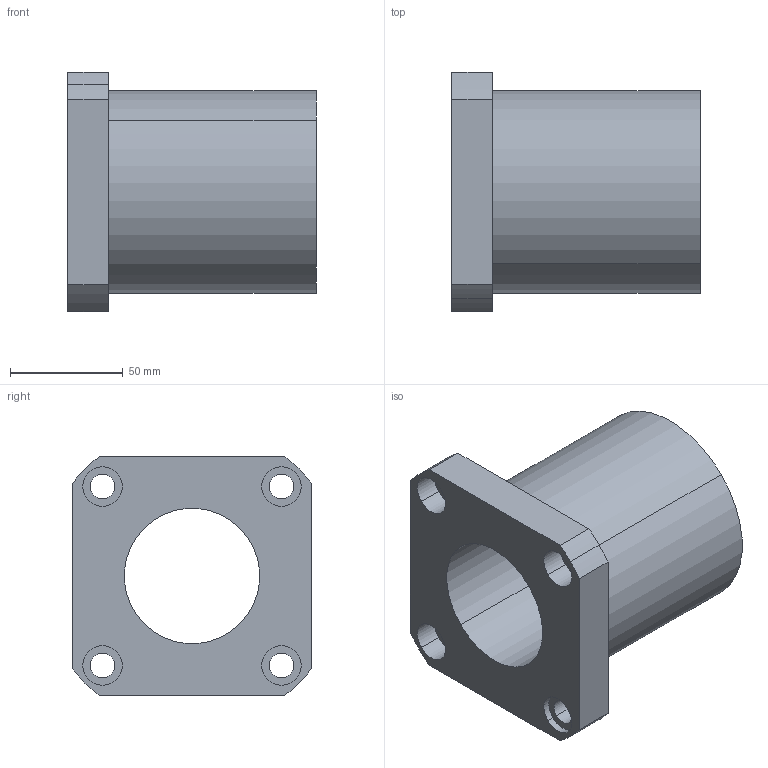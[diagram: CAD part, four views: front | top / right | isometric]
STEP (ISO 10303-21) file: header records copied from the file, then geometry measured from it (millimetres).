
FILE_DESCRIPTION (( 'STEP AP214' ), '1' );
FILE_NAME ('2.7056 Lineaarilaakeri LMK60UU.STEP', '2024-06-24T12:32:10', ( '' ), ( '' ), 'SwSTEP 2.0', 'SolidWorks 2024', '' );
FILE_SCHEMA (( 'AUTOMOTIVE_DESIGN' ));
Length unit declared in the file: millimetre
Products named in the file (1): 2.7056 Lineaarilaakeri LMK60UU
Bounding box: 110 x 106 x 106 mm (x, y, z)
Volume: 459748.2 mm3; surface area: 72617.3 mm2
Topology: 1 solids, 1 shells, 37 faces, 90 edges, 60 vertices
Faces by surface type: cylinder 26, plane 11
Entity records: 1159 total; most frequent: DIRECTION 218, CARTESIAN_POINT 188, ORIENTED_EDGE 180, EDGE_CURVE 90, AXIS2_PLACEMENT_3D 90, VERTEX_POINT 60, CIRCLE 52, EDGE_LOOP 52
